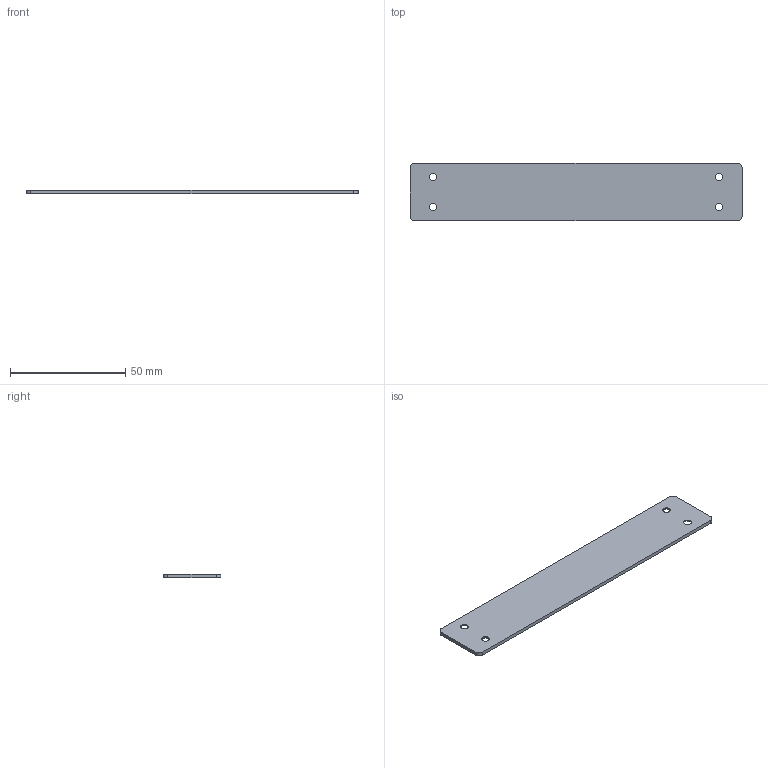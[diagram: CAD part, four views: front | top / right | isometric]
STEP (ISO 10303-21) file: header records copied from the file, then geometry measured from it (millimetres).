
FILE_DESCRIPTION(('Open CASCADE Model'),'2;1');
FILE_NAME('Open CASCADE Shape Model','2026-11-07T16:11:36',('Author'),( 'Open CASCADE'),'Open CASCADE STEP processor 7.9','Open CASCADE 7.9' ,'Unknown');
FILE_SCHEMA(('AUTOMOTIVE_DESIGN { 1 0 10303 214 1 1 1 1 }'));
Length unit declared in the file: millimetre
Products named in the file (1): Open CASCADE STEP translator 7.9 3
Bounding box: 144 x 25 x 1.6 mm (x, y, z)
Volume: 5651.7 mm3; surface area: 7703.1 mm2
Topology: 1 solids, 1 shells, 18 faces, 44 edges, 28 vertices
Faces by surface type: cylinder 8, plane 6, cone 4
Full cylindrical faces by diameter (mm): 3.3 x4
Entity records: 1158 total; most frequent: CARTESIAN_POINT 227, DIRECTION 182, LINE 96, VECTOR 96, ORIENTED_EDGE 88, PCURVE 88, DEFINITIONAL_REPRESENTATION 88, EDGE_CURVE 44
